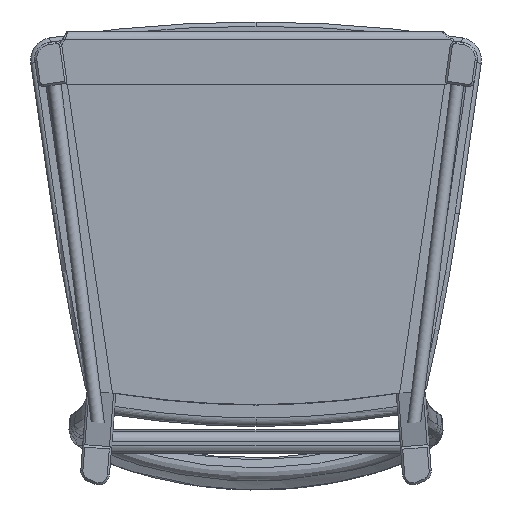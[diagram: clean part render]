
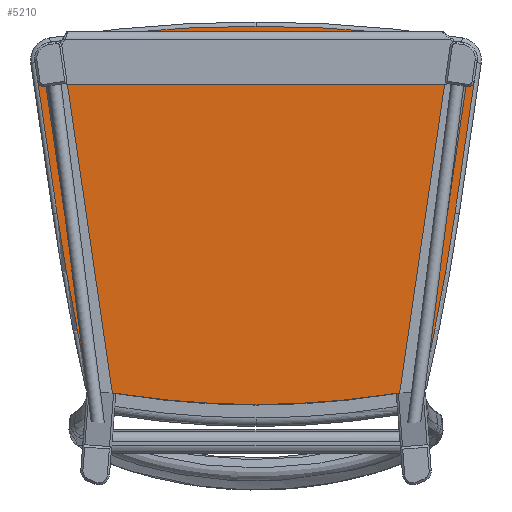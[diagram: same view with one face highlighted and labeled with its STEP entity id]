
A CAD part, front view. The second image highlights one B-rep face of the part: STEP entity #5210.
In plain terms, the highlighted planar face has unit normal (0, -1, 0).
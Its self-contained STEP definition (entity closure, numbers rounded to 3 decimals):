
#55 = VERTEX_POINT ( 'NONE', #10739 ) ;
#343 = EDGE_CURVE ( 'NONE', #4328, #10735, #627, .T. ) ;
#421 = ORIENTED_EDGE ( 'NONE', *, *, #5317, .T. ) ;
#475 = VERTEX_POINT ( 'NONE', #943 ) ;
#519 = EDGE_CURVE ( 'NONE', #11551, #475, #8026, .T. ) ;
#543 = CIRCLE ( 'NONE', #7892, 799.5 ) ;
#569 = VERTEX_POINT ( 'NONE', #11940 ) ;
#627 = CIRCLE ( 'NONE', #9632, 799.5 ) ;
#635 = ORIENTED_EDGE ( 'NONE', *, *, #10377, .T. ) ;
#748 = DIRECTION ( 'NONE',  ( 0., 0., 1. ) ) ;
#759 = ORIENTED_EDGE ( 'NONE', *, *, #3551, .T. ) ;
#778 = VERTEX_POINT ( 'NONE', #3178 ) ;
#844 = VERTEX_POINT ( 'NONE', #6557 ) ;
#943 = CARTESIAN_POINT ( 'NONE',  ( -154.227, 660., -336.927 ) ) ;
#1092 = DIRECTION ( 'NONE',  ( 0., -1., 0. ) ) ;
#1329 = DIRECTION ( 'NONE',  ( 0., 0., 1. ) ) ;
#1495 = DIRECTION ( 'NONE',  ( 0., 0., 1. ) ) ;
#1516 = CARTESIAN_POINT ( 'NONE',  ( -149.84, 660., -337.265 ) ) ;
#1595 = EDGE_CURVE ( 'NONE', #569, #778, #9532, .T. ) ;
#1624 = CIRCLE ( 'NONE', #8960, 499. ) ;
#1731 = CIRCLE ( 'NONE', #6333, 1997. ) ;
#2030 = CARTESIAN_POINT ( 'NONE',  ( -1790.491, 660., 117.034 ) ) ;
#2117 = ORIENTED_EDGE ( 'NONE', *, *, #5301, .T. ) ;
#2498 = CARTESIAN_POINT ( 'NONE',  ( -189.243, 660., -28.284 ) ) ;
#2654 = DIRECTION ( 'NONE',  ( 0., -1., 0. ) ) ;
#2698 = CARTESIAN_POINT ( 'NONE',  ( 154.227, 660., -336.927 ) ) ;
#2729 = VECTOR ( 'NONE', #10894, 1000. ) ;
#2767 = ORIENTED_EDGE ( 'NONE', *, *, #7080, .F. ) ;
#2799 = DIRECTION ( 'NONE',  ( 0.144, 0., -0.99 ) ) ;
#3051 = EDGE_LOOP ( 'NONE', ( #3206, #635, #10787, #12498, #2767, #10414, #4483, #10419, #421, #5010, #10412, #6512, #759, #2117 ) ) ;
#3178 = CARTESIAN_POINT ( 'NONE',  ( 206.066, 660., -30.735 ) ) ;
#3206 = ORIENTED_EDGE ( 'NONE', *, *, #4909, .T. ) ;
#3420 = PLANE ( 'NONE',  #8641 ) ;
#3518 = CARTESIAN_POINT ( 'NONE',  ( -188.208, 660., -834.788 ) ) ;
#3551 = EDGE_CURVE ( 'NONE', #8263, #7934, #7799, .T. ) ;
#3562 = DIRECTION ( 'NONE',  ( 0., -1., 0. ) ) ;
#3911 = AXIS2_PLACEMENT_3D ( 'NONE', #6314, #10312, #1329 ) ;
#4038 = CARTESIAN_POINT ( 'NONE',  ( -191.834, 660., -11.482 ) ) ;
#4328 = VERTEX_POINT ( 'NONE', #4601 ) ;
#4483 = ORIENTED_EDGE ( 'NONE', *, *, #4499, .F. ) ;
#4499 = EDGE_CURVE ( 'NONE', #55, #4328, #1624, .T. ) ;
#4507 = CARTESIAN_POINT ( 'NONE',  ( 189.243, 660., -28.284 ) ) ;
#4571 = DIRECTION ( 'NONE',  ( 0., 0., 1. ) ) ;
#4579 = CARTESIAN_POINT ( 'NONE',  ( 198.197, 660., -84.739 ) ) ;
#4601 = CARTESIAN_POINT ( 'NONE',  ( 115.882, 660., -341.057 ) ) ;
#4681 = CARTESIAN_POINT ( 'NONE',  ( 188.208, 660., -834.788 ) ) ;
#4684 = AXIS2_PLACEMENT_3D ( 'NONE', #4701, #7701, #11675 ) ;
#4701 = CARTESIAN_POINT ( 'NONE',  ( 0., 660., -1255.782 ) ) ;
#4804 = DIRECTION ( 'NONE',  ( -0.997, 0., -0.077 ) ) ;
#4817 = DIRECTION ( 'NONE',  ( 0., 0., 1. ) ) ;
#4842 = CARTESIAN_POINT ( 'NONE',  ( 0., 660., 450. ) ) ;
#4909 = EDGE_CURVE ( 'NONE', #844, #6428, #5094, .T. ) ;
#5010 = ORIENTED_EDGE ( 'NONE', *, *, #1595, .T. ) ;
#5094 = LINE ( 'NONE', #9081, #7944 ) ;
#5210 = ADVANCED_FACE ( 'NONE', ( #10347 ), #3420, .F. ) ;
#5301 = EDGE_CURVE ( 'NONE', #7934, #844, #12617, .T. ) ;
#5317 = EDGE_CURVE ( 'NONE', #9248, #569, #1731, .T. ) ;
#5677 = CARTESIAN_POINT ( 'NONE',  ( -115.882, 660., -341.057 ) ) ;
#5917 = AXIS2_PLACEMENT_3D ( 'NONE', #6134, #1092, #12919 ) ;
#5963 = CARTESIAN_POINT ( 'NONE',  ( 0., 660., -1255.782 ) ) ;
#6015 = DIRECTION ( 'NONE',  ( 0., -1., 0. ) ) ;
#6047 = CARTESIAN_POINT ( 'NONE',  ( -149.84, 660., -337.265 ) ) ;
#6134 = CARTESIAN_POINT ( 'NONE',  ( -189.243, 660., -28.284 ) ) ;
#6236 = VECTOR ( 'NONE', #12549, 1000. ) ;
#6314 = CARTESIAN_POINT ( 'NONE',  ( 1790.491, 660., 117.034 ) ) ;
#6333 = AXIS2_PLACEMENT_3D ( 'NONE', #2030, #6015, #10007 ) ;
#6381 = CIRCLE ( 'NONE', #3911, 1997. ) ;
#6428 = VERTEX_POINT ( 'NONE', #6726 ) ;
#6512 = ORIENTED_EDGE ( 'NONE', *, *, #9270, .T. ) ;
#6557 = CARTESIAN_POINT ( 'NONE',  ( -206.066, 660., -30.735 ) ) ;
#6714 = DIRECTION ( 'NONE',  ( 0., 1., 0. ) ) ;
#6726 = CARTESIAN_POINT ( 'NONE',  ( -185.64, 660., -170.914 ) ) ;
#7080 = EDGE_CURVE ( 'NONE', #10735, #12193, #543, .T. ) ;
#7090 = CIRCLE ( 'NONE', #8810, 17. ) ;
#7122 = AXIS2_PLACEMENT_3D ( 'NONE', #3518, #2654, #4571 ) ;
#7156 = VERTEX_POINT ( 'NONE', #12751 ) ;
#7701 = DIRECTION ( 'NONE',  ( 0., -1., 0. ) ) ;
#7799 = CIRCLE ( 'NONE', #4684, 1259. ) ;
#7892 = AXIS2_PLACEMENT_3D ( 'NONE', #4842, #6714, #748 ) ;
#7934 = VERTEX_POINT ( 'NONE', #4038 ) ;
#7944 = VECTOR ( 'NONE', #2799, 1000. ) ;
#8026 = LINE ( 'NONE', #6047, #2729 ) ;
#8263 = VERTEX_POINT ( 'NONE', #9950 ) ;
#8511 = DIRECTION ( 'NONE',  ( 0., 0., 1. ) ) ;
#8566 = AXIS2_PLACEMENT_3D ( 'NONE', #5963, #8990, #4817 ) ;
#8620 = EDGE_CURVE ( 'NONE', #12193, #11551, #10042, .T. ) ;
#8641 = AXIS2_PLACEMENT_3D ( 'NONE', #2498, #11324, #1495 ) ;
#8644 = CARTESIAN_POINT ( 'NONE',  ( 0., 660., -349.5 ) ) ;
#8645 = EDGE_CURVE ( 'NONE', #778, #7156, #7090, .T. ) ;
#8810 = AXIS2_PLACEMENT_3D ( 'NONE', #4507, #10698, #11483 ) ;
#8851 = CARTESIAN_POINT ( 'NONE',  ( 158.409, 660., -336.604 ) ) ;
#8960 = AXIS2_PLACEMENT_3D ( 'NONE', #4681, #3562, #11392 ) ;
#8990 = DIRECTION ( 'NONE',  ( 0., -1., 0. ) ) ;
#9081 = CARTESIAN_POINT ( 'NONE',  ( -206.066, 660., -30.735 ) ) ;
#9204 = VECTOR ( 'NONE', #4804, 1000. ) ;
#9248 = VERTEX_POINT ( 'NONE', #2698 ) ;
#9270 = EDGE_CURVE ( 'NONE', #7156, #8263, #10856, .T. ) ;
#9532 = LINE ( 'NONE', #4579, #6236 ) ;
#9632 = AXIS2_PLACEMENT_3D ( 'NONE', #10529, #10664, #8511 ) ;
#9950 = CARTESIAN_POINT ( 'NONE',  ( 0., 660., 3.218 ) ) ;
#10007 = DIRECTION ( 'NONE',  ( 0., 0., 1. ) ) ;
#10042 = CIRCLE ( 'NONE', #7122, 499. ) ;
#10312 = DIRECTION ( 'NONE',  ( 0., -1., 0. ) ) ;
#10347 = FACE_OUTER_BOUND ( 'NONE', #3051, .T. ) ;
#10377 = EDGE_CURVE ( 'NONE', #6428, #475, #6381, .T. ) ;
#10412 = ORIENTED_EDGE ( 'NONE', *, *, #8645, .T. ) ;
#10414 = ORIENTED_EDGE ( 'NONE', *, *, #343, .F. ) ;
#10419 = ORIENTED_EDGE ( 'NONE', *, *, #12713, .F. ) ;
#10529 = CARTESIAN_POINT ( 'NONE',  ( 0., 660., 450. ) ) ;
#10664 = DIRECTION ( 'NONE',  ( 0., 1., 0. ) ) ;
#10698 = DIRECTION ( 'NONE',  ( 0., -1., 0. ) ) ;
#10735 = VERTEX_POINT ( 'NONE', #8644 ) ;
#10739 = CARTESIAN_POINT ( 'NONE',  ( 149.84, 660., -337.265 ) ) ;
#10787 = ORIENTED_EDGE ( 'NONE', *, *, #519, .F. ) ;
#10856 = CIRCLE ( 'NONE', #8566, 1259. ) ;
#10894 = DIRECTION ( 'NONE',  ( -0.997, 0., 0.077 ) ) ;
#11324 = DIRECTION ( 'NONE',  ( 0., 1., 0. ) ) ;
#11392 = DIRECTION ( 'NONE',  ( 0., 0., 1. ) ) ;
#11483 = DIRECTION ( 'NONE',  ( 0., 0., 1. ) ) ;
#11551 = VERTEX_POINT ( 'NONE', #1516 ) ;
#11675 = DIRECTION ( 'NONE',  ( 0., 0., 1. ) ) ;
#11907 = LINE ( 'NONE', #8851, #9204 ) ;
#11940 = CARTESIAN_POINT ( 'NONE',  ( 185.64, 660., -170.914 ) ) ;
#12193 = VERTEX_POINT ( 'NONE', #5677 ) ;
#12498 = ORIENTED_EDGE ( 'NONE', *, *, #8620, .F. ) ;
#12549 = DIRECTION ( 'NONE',  ( 0.144, 0., 0.99 ) ) ;
#12617 = CIRCLE ( 'NONE', #5917, 17. ) ;
#12713 = EDGE_CURVE ( 'NONE', #9248, #55, #11907, .T. ) ;
#12751 = CARTESIAN_POINT ( 'NONE',  ( 191.834, 660., -11.482 ) ) ;
#12919 = DIRECTION ( 'NONE',  ( 0., 0., 1. ) ) ;
